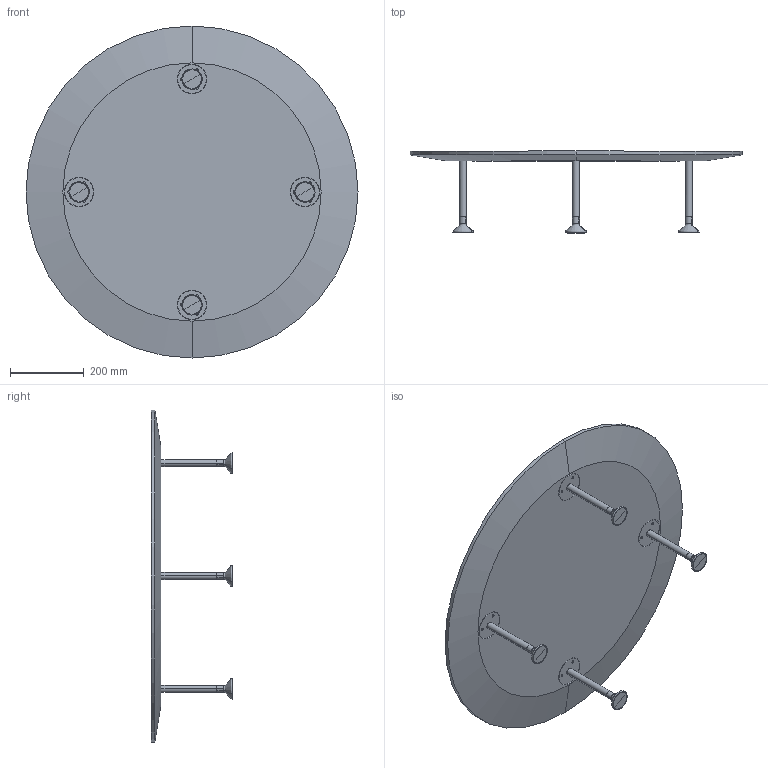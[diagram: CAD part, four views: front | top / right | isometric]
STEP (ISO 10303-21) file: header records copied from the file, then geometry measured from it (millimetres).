
FILE_DESCRIPTION (( 'STEP AP214' ), '1' );
FILE_NAME ('RoundØ900leg220.STEP', '2017-05-28T18:58:25', ( '' ), ( '' ), 'SwSTEP 2.0', 'SolidWorks 2016', '' );
FILE_SCHEMA (( 'AUTOMOTIVE_DESIGN' ));
Length unit declared in the file: millimetre
Products named in the file (3): ben220; Round ﾘ900; RoundØ900leg220
Assembly tree (5 placements, depth 2):
  RoundØ900leg220
    Round ﾘ900
    ben220  x4
Bounding box: 900 x 221 x 900 mm (x, y, z)
Volume: 14631188.3 mm3; surface area: 1459550.1 mm2
Topology: 13 solids, 13 shells, 126 faces, 290 edges, 186 vertices
Faces by surface type: cylinder 66, bspline 32, plane 26, cone 2
Entity records: 2456 total; most frequent: CARTESIAN_POINT 1340, DIRECTION 216, ORIENTED_EDGE 192, EDGE_CURVE 96, AXIS2_PLACEMENT_3D 95, VERTEX_POINT 63, EDGE_LOOP 59, CIRCLE 50
